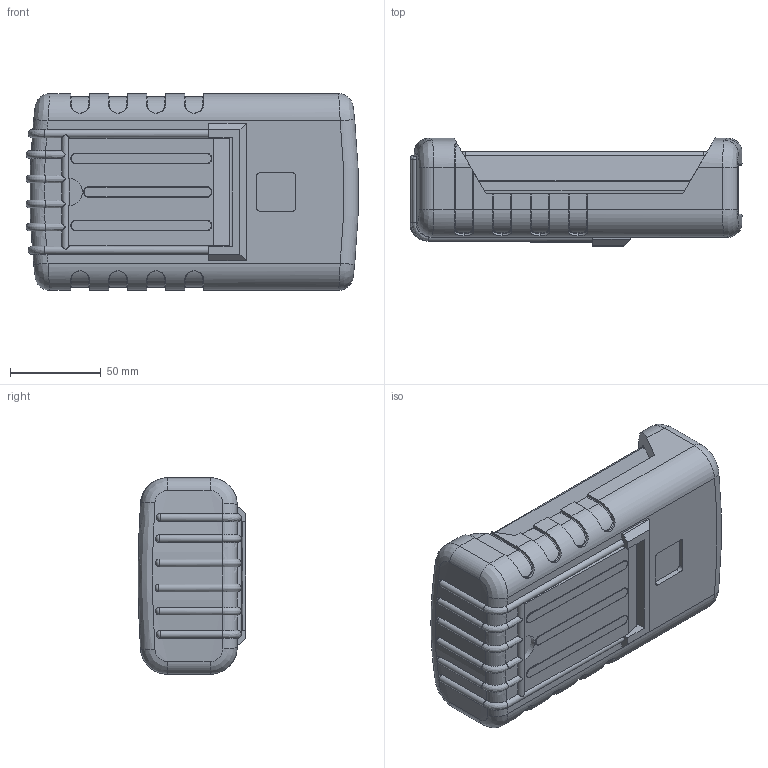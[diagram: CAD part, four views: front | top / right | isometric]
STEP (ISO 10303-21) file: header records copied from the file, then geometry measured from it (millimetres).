
FILE_DESCRIPTION (( 'STEP AP214' ), '1' );
FILE_NAME ('91-43-NO-E-R.STEP', '2020-10-20T00:55:16', ( 'Rudy' ), ( '' ), 'SwSTEP 2.0', 'SolidWorks 2014', '' );
FILE_SCHEMA (( 'AUTOMOTIVE_DESIGN' ));
Length unit declared in the file: millimetre
Products named in the file (8): 90 PCB NO; 90 LCD Expander; 91 LCD Top; 90-no bat-Deep bottom; 91-43-NO-E-R; 90 RBE Boot; RE 90 stand
Assembly tree (7 placements, depth 3):
  91-43-NO-E-R
    90-no bat-Deep bottom
    91 LCD Top
    90 LCD Expander
    90 PCB NO
    90 RBE Boot
      90 RBE Boot
      RE 90 stand
Bounding box: 183.26 x 59.56 x 108.46 mm (x, y, z)
Volume: 419953.4 mm3; surface area: 211372.3 mm2
Topology: 6 solids, 6 shells, 837 faces, 2176 edges, 1391 vertices
Faces by surface type: plane 414, cylinder 245, bspline 76, cone 56, torus 41, sphere 5
Entity records: 32575 total; most frequent: CARTESIAN_POINT 12211, ORIENTED_EDGE 4344, DIRECTION 4021, EDGE_CURVE 2172, AXIS2_PLACEMENT_3D 1408, VERTEX_POINT 1391, VECTOR 1205, LINE 1205
